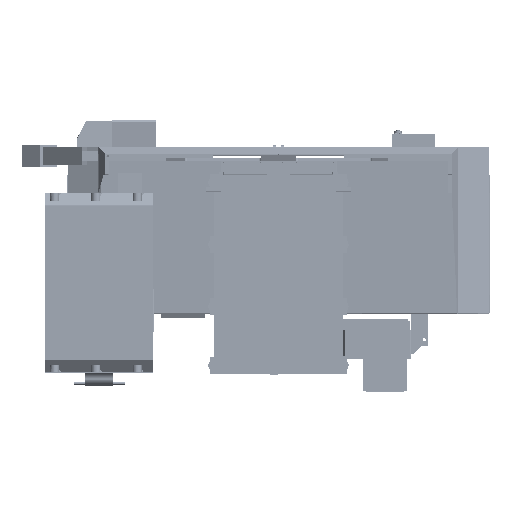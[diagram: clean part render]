
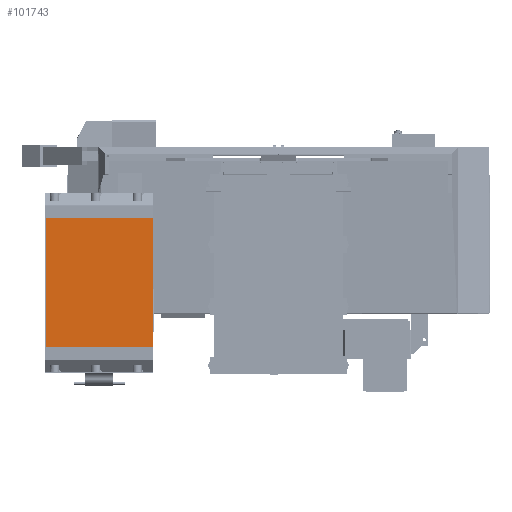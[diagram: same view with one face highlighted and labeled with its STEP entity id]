
A CAD part, front view. The second image highlights one B-rep face of the part: STEP entity #101743.
In plain terms, the highlighted planar face has unit normal (0, -1, 0).
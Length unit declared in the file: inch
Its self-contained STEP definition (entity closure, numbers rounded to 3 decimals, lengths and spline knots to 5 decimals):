
#15201 = EDGE_CURVE ( 'NONE', #659024, #766014, #681333, .T. ) ;
#18010 = ORIENTED_EDGE ( 'NONE', *, *, #927676, .T. ) ;
#26625 = CARTESIAN_POINT ( 'NONE',  ( -21.605, -19.4571, 33.76 ) ) ;
#54003 = VERTEX_POINT ( 'NONE', #930188 ) ;
#67226 = VECTOR ( 'NONE', #431651, 39.37008 ) ;
#82799 = DIRECTION ( 'NONE',  ( 0., 1., 0. ) ) ;
#99477 = ORIENTED_EDGE ( 'NONE', *, *, #15201, .T. ) ;
#101743 = ADVANCED_FACE ( 'NONE', ( #242787 ), #301173, .F. ) ;
#126639 = DIRECTION ( 'NONE',  ( 1., 0., 0. ) ) ;
#133112 = EDGE_CURVE ( 'NONE', #586717, #54003, #882222, .T. ) ;
#168036 = CARTESIAN_POINT ( 'NONE',  ( -68.105, -19.4571, 33.76 ) ) ;
#196313 = EDGE_CURVE ( 'NONE', #659024, #586717, #402449, .T. ) ;
#242787 = FACE_OUTER_BOUND ( 'NONE', #731523, .T. ) ;
#301173 = PLANE ( 'NONE',  #725747 ) ;
#339304 = CARTESIAN_POINT ( 'NONE',  ( -68.21, -19.4571, 33.76 ) ) ;
#350158 = VECTOR ( 'NONE', #126639, 39.37008 ) ;
#359085 = CARTESIAN_POINT ( 'NONE',  ( -21.605, -19.4571, 39.16 ) ) ;
#402449 = LINE ( 'NONE', #339304, #809924 ) ;
#431651 = DIRECTION ( 'NONE',  ( 0., 0., -1. ) ) ;
#455505 = CARTESIAN_POINT ( 'NONE',  ( -68.105, -19.4571, -22.54 ) ) ;
#555143 = DIRECTION ( 'NONE',  ( 0., 0., -1. ) ) ;
#586717 = VERTEX_POINT ( 'NONE', #26625 ) ;
#596468 = CARTESIAN_POINT ( 'NONE',  ( -68.105, -19.4571, 39.16 ) ) ;
#603375 = ORIENTED_EDGE ( 'NONE', *, *, #133112, .F. ) ;
#659024 = VERTEX_POINT ( 'NONE', #168036 ) ;
#671807 = CARTESIAN_POINT ( 'NONE',  ( -68.105, -19.4571, 39.16 ) ) ;
#681333 = LINE ( 'NONE', #671807, #832196 ) ;
#708178 = CARTESIAN_POINT ( 'NONE',  ( -68.105, -19.4571, -22.54 ) ) ;
#725747 = AXIS2_PLACEMENT_3D ( 'NONE', #596468, #82799, #737031 ) ;
#731523 = EDGE_LOOP ( 'NONE', ( #787814, #99477, #18010, #603375 ) ) ;
#737031 = DIRECTION ( 'NONE',  ( 0., 0., 1. ) ) ;
#766014 = VERTEX_POINT ( 'NONE', #455505 ) ;
#780990 = LINE ( 'NONE', #708178, #350158 ) ;
#787814 = ORIENTED_EDGE ( 'NONE', *, *, #196313, .F. ) ;
#809924 = VECTOR ( 'NONE', #930531, 39.37008 ) ;
#832196 = VECTOR ( 'NONE', #555143, 39.37008 ) ;
#882222 = LINE ( 'NONE', #359085, #67226 ) ;
#927676 = EDGE_CURVE ( 'NONE', #766014, #54003, #780990, .T. ) ;
#930188 = CARTESIAN_POINT ( 'NONE',  ( -21.605, -19.4571, -22.54 ) ) ;
#930531 = DIRECTION ( 'NONE',  ( 1., 0., 0. ) ) ;
